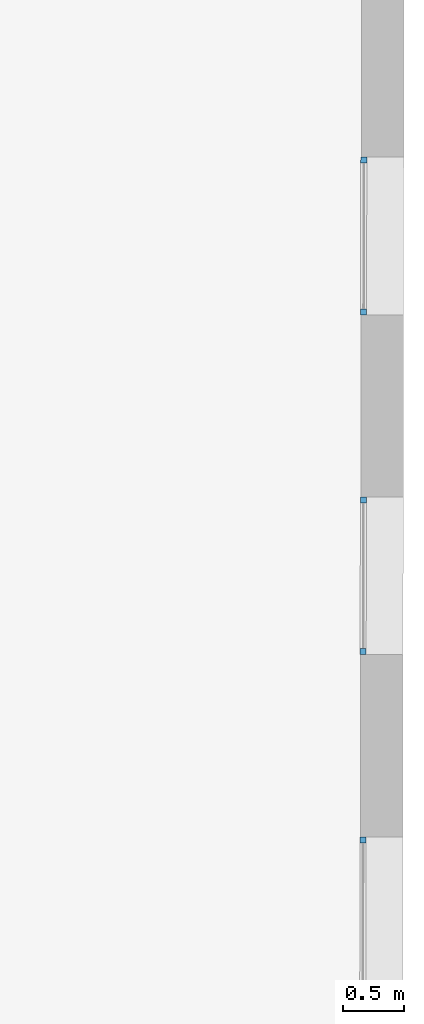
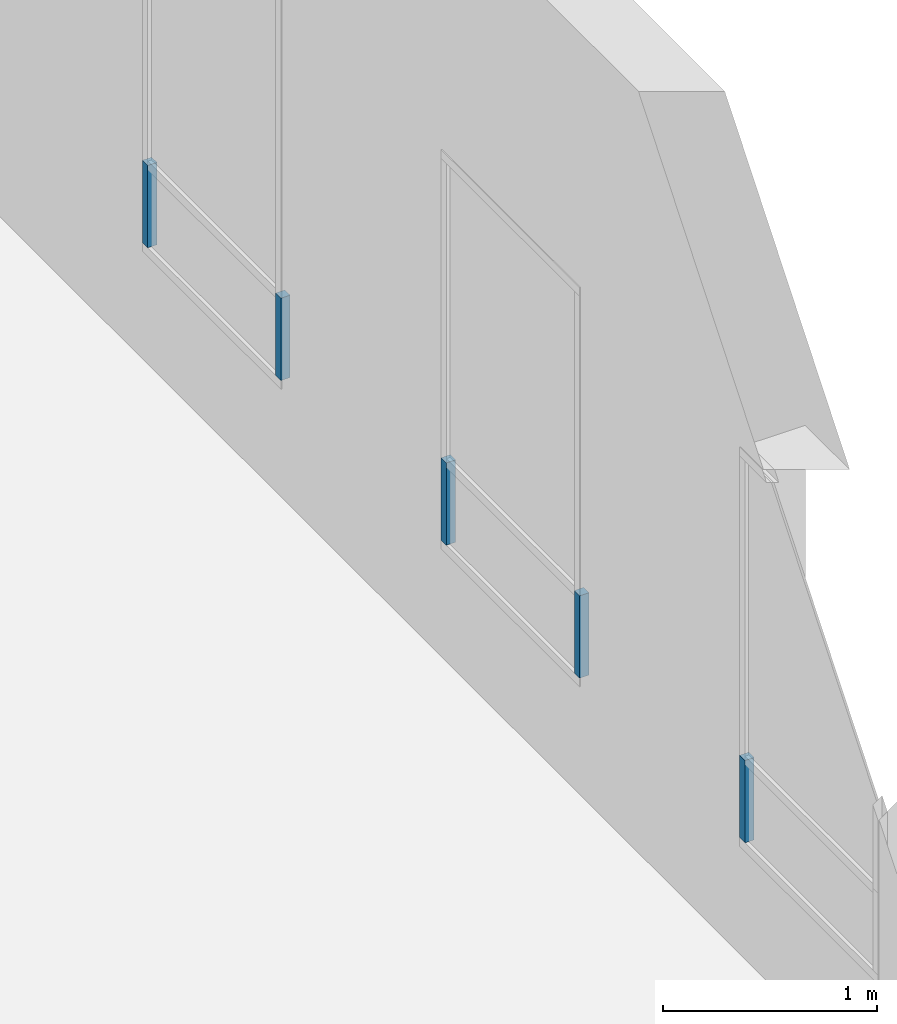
# One storey, part 23 of 35: 5 members, 3 elements without a shape of their own.
"""IFC2X3 building model written with IfcOpenShell, lengths in metres."""

from ifc_helpers import new_model, entity, si_unit, converted_unit, derived_unit, direction, frame, origin, origin_2d_with_axis, place, context, subcontext, project, spatial, rectangle, extrude, source, transform, mapped, material, type_object, type_shapes, element, aggregate, save


model = new_model("IFC2X3")

# Units and contexts
model_context = context("Model", 3, precision=1e-05, world=origin(), true_north=direction((6.123233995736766e-17, 1.0)))
body_context = subcontext(model_context, "Body", "Model", "MODEL_VIEW")
ifc_project = project(units=[si_unit("LENGTHUNIT", "METRE"), si_unit("AREAUNIT", "SQUARE_METRE"), converted_unit("PLANEANGLEUNIT", "DEGREE", entity("IfcPlaneAngleMeasure", 0.017453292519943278), si_unit("PLANEANGLEUNIT", "RADIAN"), dimensions=[0, 0, 0, 0, 0, 0, 0]), derived_unit("THERMALTRANSMITTANCEUNIT", [(si_unit("MASSUNIT", "GRAM", prefix="KILO"), 1), (si_unit("THERMODYNAMICTEMPERATUREUNIT", "KELVIN"), -1), (si_unit("TIMEUNIT", "SECOND"), -3)])], contexts=[model_context])

# Site, building, storey
site_placement = place(None, frame((1253.6752467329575, 2072.143113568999, 91.49999999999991), z_axis=(0.0, 0.0, 1.0), x_axis=(0.7237211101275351, 0.6900925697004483, 0.0)))
site = spatial("IfcSite", under=ifc_project, at=site_placement, Name="Surface", CompositionType="ELEMENT")
building_placement = place(site_placement, origin())
building = spatial("IfcBuilding", under=site, at=building_placement, CompositionType="ELEMENT")
storey_placement = place(building_placement, frame((0.0, 0.0, 3.549999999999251)))
storey = spatial("IfcBuildingStorey", under=building, at=storey_placement, Name="1-R+1", CompositionType="ELEMENT", Elevation=3.549999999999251)

# Curtain wall, member
curtain_wall_type = type_object("IfcCurtainWallType", Name="Mur-rideau:Menuiserie Ext 1F+1OB VERTIC", PredefinedType="NOTDEFINED")
curtain_wall_1_placement = place(storey_placement, frame((0.0, 0.0, -3.549999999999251)))
curtain_wall_1 = element("IfcCurtainWall", 1, at=curtain_wall_1_placement, inside=storey, type_object=curtain_wall_type, Name="Mur-rideau:Menuiserie Ext 1F+1OB VERTIC", ObjectType="Mur-rideau:Menuiserie Ext 1F+1OB VERTIC")
ifc_material = material(Name="OMD_Aluminium Men Ext")
member_type_1 = type_object("IfcMemberType", Name="Meneau rectangulaire:50x50", PredefinedType="MULLION", material=ifc_material)
shared_shape_1 = source(origin(), body_context, "Body", "SweptSolid", [
    extrude(rectangle(XDim=0.05, YDim=0.049999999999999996, at=origin_2d_with_axis()), frame((-0.025, 0.0, -0.4699999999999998), z_axis=(0.0, 0.0, 1.0), x_axis=(-1.0, 0.0, 0.0)), (0.0, 0.0, 1.0), 0.4699999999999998),
])
type_shapes(member_type_1, [shared_shape_1])
member_1_placement = place(curtain_wall_1_placement, frame((194.64624495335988, -13.201600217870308, 4.219999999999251), z_axis=(0.0, 0.0, -1.0), x_axis=(0.6909838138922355, 0.7228702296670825, 0.0)))
member_1 = element("IfcMember", 2, at=member_1_placement, type_object=member_type_1, material=ifc_material, Name="Meneau rectangulaire:50x50", ObjectType="Meneau rectangulaire:50x50", context=body_context, shape_type="MappedRepresentation", body=[
    mapped(shared_shape_1, transform((0.0, 0.0, 0.0), scale=1.0)),
])

curtain_wall_2_placement = place(storey_placement, frame((0.0, 0.0, -3.549999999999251)))
curtain_wall_2 = element("IfcCurtainWall", 3, at=curtain_wall_2_placement, inside=storey, type_object=curtain_wall_type, Name="Mur-rideau:Menuiserie Ext 1F+1OB VERTIC", ObjectType="Mur-rideau:Menuiserie Ext 1F+1OB VERTIC")
member_2_placement = place(curtain_wall_2_placement, frame((192.71149027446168, -15.225636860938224, 4.219999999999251), z_axis=(0.0, 0.0, -1.0), x_axis=(0.6909838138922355, 0.7228702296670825, 0.0)))
member_2 = element("IfcMember", 4, at=member_2_placement, type_object=member_type_1, material=ifc_material, Name="Meneau rectangulaire:50x50", ObjectType="Meneau rectangulaire:50x50", context=body_context, shape_type="MappedRepresentation", body=[
    mapped(shared_shape_1, transform((0.0, 0.0, 0.0), scale=1.0)),
])

curtain_wall_3_placement = place(storey_placement, frame((0.0, 0.0, -3.549999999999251)))
curtain_wall_3 = element("IfcCurtainWall", 5, at=curtain_wall_3_placement, inside=storey, type_object=curtain_wall_type, Name="Mur-rideau:Menuiserie Ext 1F+1OB VERTIC", ObjectType="Mur-rideau:Menuiserie Ext 1F+1OB VERTIC")
member_3_placement = place(curtain_wall_3_placement, frame((190.77673559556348, -17.249673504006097, 4.219999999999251), z_axis=(0.0, 0.0, -1.0), x_axis=(0.6909838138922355, 0.7228702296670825, 0.0)))
member_3 = element("IfcMember", 6, at=member_3_placement, type_object=member_type_1, material=ifc_material, Name="Meneau rectangulaire:50x50", ObjectType="Meneau rectangulaire:50x50", context=body_context, shape_type="MappedRepresentation", body=[
    mapped(shared_shape_1, transform((0.0, 0.0, 0.0), scale=1.0)),
])
aggregate(curtain_wall_3, [member_3])

# Member
member_type_2 = type_object("IfcMemberType", Name="Meneau rectangulaire:50x50", PredefinedType="MULLION", material=ifc_material)
shared_shape_2 = source(origin(), body_context, "Body", "SweptSolid", [
    extrude(rectangle(XDim=0.05, YDim=0.049999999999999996, at=origin_2d_with_axis()), frame((-0.025, 0.0, -0.4699999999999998), z_axis=(0.0, 0.0, 1.0), x_axis=(-1.0, 0.0, 0.0)), (0.0, 0.0, 1.0), 0.4699999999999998),
])
type_shapes(member_type_2, [shared_shape_2])
member_4_placement = place(curtain_wall_1_placement, frame((193.74817612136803, -14.14111169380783, 4.689999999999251), z_axis=(0.0, 0.0, 1.0), x_axis=(-0.6909838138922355, -0.7228702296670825, 0.0)))
member_4 = element("IfcMember", 7, at=member_4_placement, type_object=member_type_2, material=ifc_material, Name="Meneau rectangulaire:50x50", ObjectType="Meneau rectangulaire:50x50", context=body_context, shape_type="MappedRepresentation", body=[
    mapped(shared_shape_2, transform((0.0, 0.0, 0.0), scale=1.0)),
])

aggregate(curtain_wall_1, [member_1, member_4])

member_5_placement = place(curtain_wall_2_placement, frame((191.8134214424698, -16.16514833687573, 4.689999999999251), z_axis=(0.0, 0.0, 1.0), x_axis=(-0.6909838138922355, -0.7228702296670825, 0.0)))
member_5 = element("IfcMember", 8, at=member_5_placement, type_object=member_type_2, material=ifc_material, Name="Meneau rectangulaire:50x50", ObjectType="Meneau rectangulaire:50x50", context=body_context, shape_type="MappedRepresentation", body=[
    mapped(shared_shape_2, transform((0.0, 0.0, 0.0), scale=1.0)),
])

aggregate(curtain_wall_2, [member_2, member_5])

save(model, "model.ifc")
